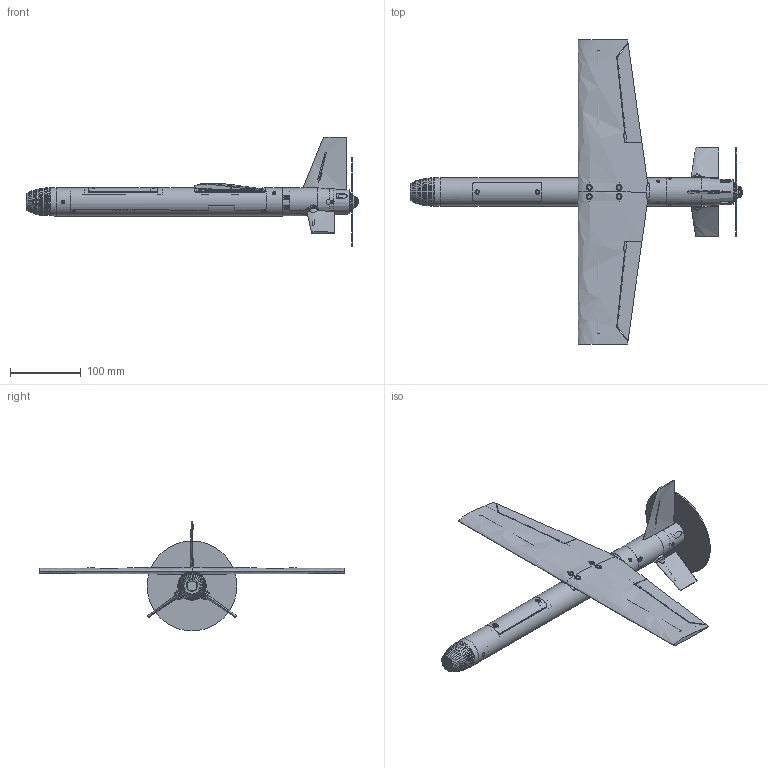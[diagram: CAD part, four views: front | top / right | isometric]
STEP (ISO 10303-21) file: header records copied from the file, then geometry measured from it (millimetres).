
FILE_DESCRIPTION(('SkyG Speed 90B - revision C6B-13 - 2026-10-11','C6B-assembly'),'2;1');
FILE_NAME('C6B-assembly_C6B-13','2026-10-11T17:52:56',('Author'),( 'Open CASCADE'),'Open CASCADE STEP processor 7.9','Open CASCADE 7.9' ,'Unknown');
FILE_SCHEMA(('AUTOMOTIVE_DESIGN { 1 0 10303 214 1 1 1 1 }'));
Length unit declared in the file: millimetre
Products named in the file (163): C4; N0M-nose-micro-camera; N0M-vtx-shelf; F3-tail-module; WR-wing-right; WL-wing-left; AR-aileron-right; AL-aileron-left; SR-stabilator-right; SL-stabilator-left; FN-fin; AHR-aileron-horn-right; AHL-aileron-horn-left; THR-tail-horn-right; THL-tail-horn-left; TR-equipment-tray; TC-tail-coupler; CW-countersunk-washer; NB1-wing-nut-bar-front; NB2-wing-nut-bar-rear; HL1-hatch-lip-front; HL2-hatch-lip-rear; HF-front-hatch; WF-wing-window-filler; HG-gps-carrier; M1-motor-plate; SP-spinner; ENV-scr_mplate_R; ENV-cw_13; ENV-scr_mplate_L; ENV-cw_14; ENV-motor; ENV-prop_disc; ENV-prop_hub_nut; ENV-battery; ENV-camera_micro19; ENV-cam_screws; ENV-O_o4_camera; ENV-O_window; ENV-O_o4_screws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
Assembly tree (162 placements, depth 2):
  C4
    N0M-nose-micro-camera
    N0M-vtx-shelf
    F3-tail-module
    WR-wing-right
    WL-wing-left
    AR-aileron-right
    AL-aileron-left
    SR-stabilator-right
    SL-stabilator-left
    FN-fin
    AHR-aileron-horn-right
    AHL-aileron-horn-left
    THR-tail-horn-right
    THL-tail-horn-left
    TR-equipment-tray
    TC-tail-coupler
    CW-countersunk-washer
    NB1-wing-nut-bar-front
    NB2-wing-nut-bar-rear
    HL1-hatch-lip-front
    HL2-hatch-lip-rear
    HF-front-hatch
    WF-wing-window-filler
    HG-gps-carrier
    M1-motor-plate
    SP-spinner
    ENV-scr_mplate_R
    ENV-cw_13
    ENV-scr_mplate_L
    ENV-cw_14
    ENV-motor
    ENV-prop_disc
    ENV-prop_hub_nut
    ENV-battery
    ENV-camera_micro19
    ENV-cam_screws
    ENV-O_o4_camera
    ENV-O_window
    ENV-O_o4_screws
    ENV-O_o4_module
    ENV-vtx
    ENV-gnss
    ENV-flight_controller
    ENV-ail_servo_arm
    ENV-ail_rod_R
    ENV-ail_link_R
    ENV-ail_rod_L
    ENV-ail_link_L
    ENV-ail_spine_R
    ENV-ail_spine_L
    ENV-receiver
    ENV-ant_elrs
    ENV-ant_vtx
    ENV-O_ant_video
    ENV-aileron_servo
    ENV-tail_servo_L
    ENV-tail_servo_R
    ENV-esc
    ENV-tail_servo_arm_R
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Bounding box: 469.18 x 430 x 155.1 mm (x, y, z)
Volume: 476092.5 mm3; surface area: 354202.9 mm2
Topology: 186 solids, 186 shells, 2674 faces, 6770 edges, 4484 vertices
Faces by surface type: plane 1719, cylinder 560, bspline 211, cone 151, torus 15, revolution 11, sphere 7
Full cylindrical faces by diameter (mm): 0.98 x6, 1.107 x11, 1.2 x22, 1.25 x8, 1.5 x2, 1.6 x34, 1.9 x1, 2 x32, 2.1 x2, 2.2 x22, 2.5 x2, 2.6 x4, 2.842 x6, 3 x17, 3.05 x2, 3.2 x8, 3.8 x2, 3.9 x3, 3.94 x3, 4 x4, 4.9 x14, 5 x12, 5.2 x3, 5.5 x4, 5.6 x3, 6 x5, 6.3 x2, 8 x4, 9 x1, 9.2 x1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
Entity records: 428630 total; most frequent: CARTESIAN_POINT 298160, DIRECTION 20757, ORIENTED_EDGE 13526, PCURVE 13526, DEFINITIONAL_REPRESENTATION 13526, LINE 9367, VECTOR 9367, EDGE_CURVE 6763
